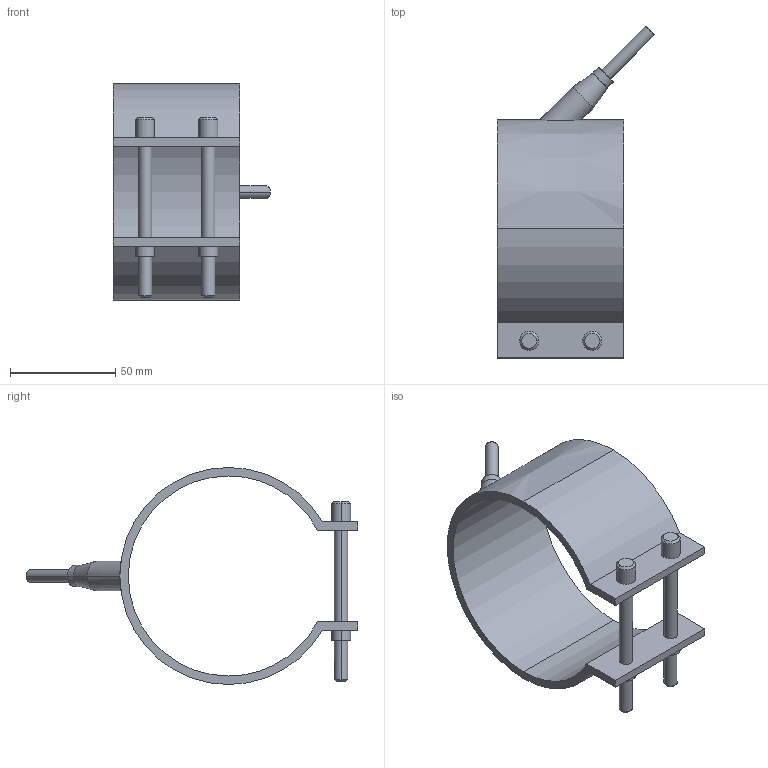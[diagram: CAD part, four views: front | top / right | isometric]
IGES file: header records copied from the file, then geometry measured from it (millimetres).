
Start section: START RECORD GO HERE.
Global section: file name: 29095060.igs; native system: DASSAULT SYSTEMES CATIA V5 R20 - www.3ds.com; preprocessor: CATIA Version 5 Release 20 ; author: Utente; organization: NB04-ASUS; date: 20210329.161644; units: millimetre
Bounding box: 74.55 x 157.55 x 103 mm (x, y, z)
Surface area: 43373.3 mm2 (no closed solid volume)
Topology: 0 solids, 0 shells, 54 faces, 246 edges, 246 vertices
Faces by surface type: revolution 38, plane 16
